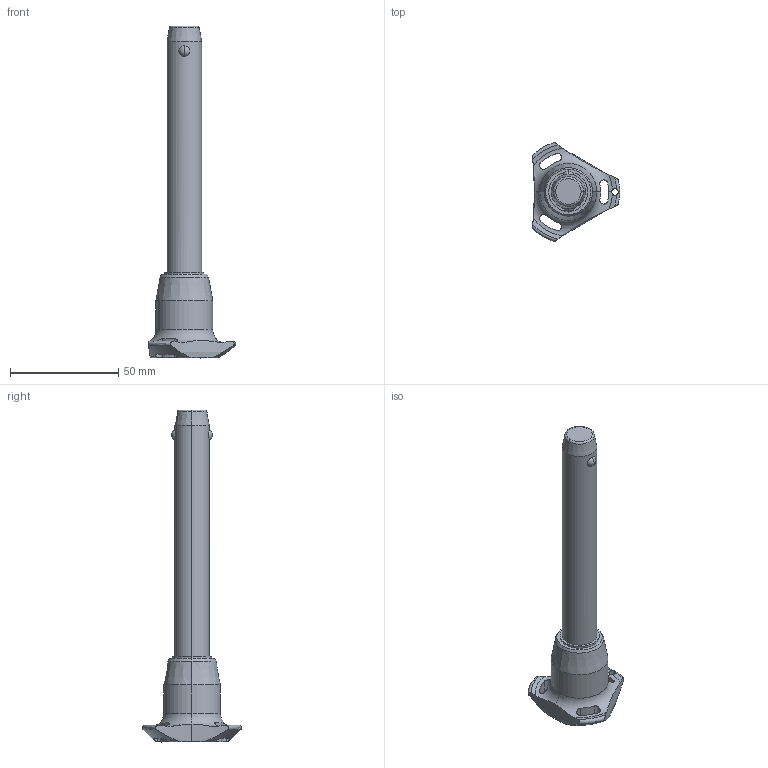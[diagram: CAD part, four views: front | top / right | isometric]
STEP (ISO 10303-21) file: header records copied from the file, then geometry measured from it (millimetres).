
FILE_DESCRIPTION (( 'STEP AP203' ), '1' );
FILE_NAME ('QR1724.M16-100-S.step', '2025-11-12T13:04:22', ( '' ), ( '' ), 'SwSTEP 2.0', 'SolidWorks 2019', '' );
FILE_SCHEMA (( 'CONFIG_CONTROL_DESIGN' ));
Length unit declared in the file: millimetre
Products named in the file (1): QR1724.M16-100-S
Bounding box: 40.5 x 45.88 x 153.7 mm (x, y, z)
Volume: 45202.9 mm3; surface area: 11685.1 mm2
Topology: 1 solids, 1 shells, 65 faces, 178 edges, 113 vertices
Faces by surface type: cylinder 30, cone 14, torus 11, sphere 6, plane 4
Entity records: 2870 total; most frequent: CARTESIAN_POINT 1181, ORIENTED_EDGE 356, DIRECTION 329, EDGE_CURVE 178, AXIS2_PLACEMENT_3D 147, VERTEX_POINT 113, CIRCLE 81, EDGE_LOOP 71
